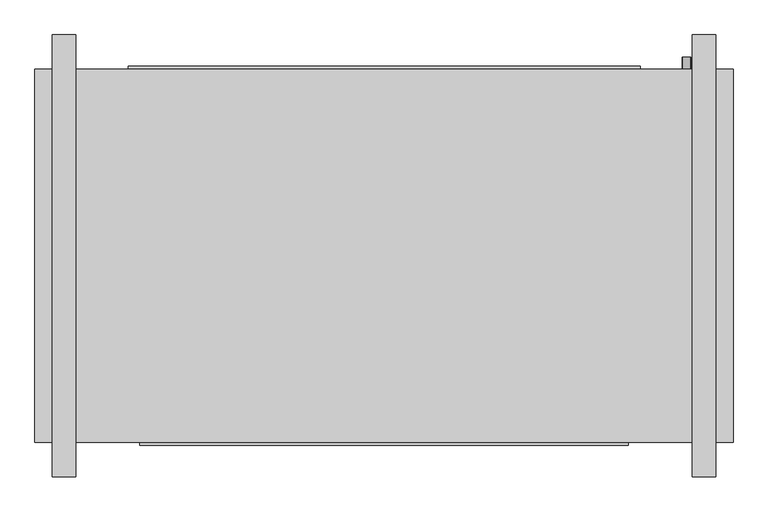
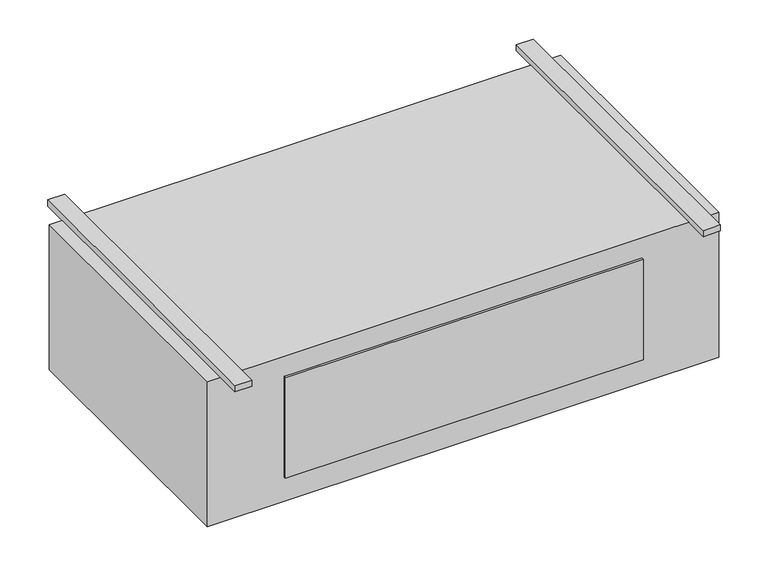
"""IFC4 building model written with IfcOpenShell, lengths in millimetres: proxy geometry, Exposed_High_Capacity_Horizontal_Cabinet_Fan_Coil_Unit_-_42DFA_-_CARRIER_-_4-Pipe_RH_2022 : Size 18 - 277v/60Hz/1Ph - 6/2 Coil."""

from ifc_helpers import new_model, si_unit, point, frame, frame_2d, origin, origin_with_axes, place, context, project, spatial, polyline, circle_curve, trimmed, segment, composite_curve, outline, extrude, source, transform, mapped, element, save


def mechanical_equipment_647ce925(model_context):
    return source(origin(), model_context, "Body", "SweptSolid", [
        extrude(outline(composite_curve([segment(trimmed(circle_curve(frame_2d((-406.4, 812.8)), 9.525), [point((-406.4, 803.275))], [point((-406.4, 822.325))], False, "CARTESIAN"), True, "CONTINUOUS"), segment(trimmed(circle_curve(frame_2d((-406.4, 812.8)), 9.525), [point((-406.4, 822.325))], [point((-406.4, 803.275))], False, "CARTESIAN"), True, "CONTINUOUS")], self_intersect=False)), frame((0.0, 169.8625, 0.0), z_axis=(0.0, 1.0, 0.0), x_axis=(0.0, 0.0, 1.0)), (0.0, 0.0, 1.0), 25.4),
        extrude(outline(composite_curve([segment(trimmed(circle_curve(frame_2d((-330.2, 812.8)), 7.9375), [point((-330.2, 804.8625))], [point((-330.2, 820.7375))], False, "CARTESIAN"), True, "CONTINUOUS"), segment(trimmed(circle_curve(frame_2d((-330.2, 812.8)), 7.9375), [point((-330.2, 820.7375))], [point((-330.2, 804.8625))], False, "CARTESIAN"), True, "CONTINUOUS")], self_intersect=False)), frame((0.0, 169.8625, 0.0), z_axis=(0.0, 1.0, 0.0), x_axis=(0.0, 0.0, 1.0)), (0.0, 0.0, 1.0), 25.4),
        extrude(outline(composite_curve([segment(trimmed(circle_curve(frame_2d((-254.0, 812.8)), 7.9375), [point((-254.0, 804.8625))], [point((-254.0, 820.7375))], False, "CARTESIAN"), True, "CONTINUOUS"), segment(trimmed(circle_curve(frame_2d((-254.0, 812.8)), 7.9375), [point((-254.0, 820.7375))], [point((-254.0, 804.8625))], False, "CARTESIAN"), True, "CONTINUOUS")], self_intersect=False)), frame((0.0, 169.8625, 0.0), z_axis=(0.0, 1.0, 0.0), x_axis=(0.0, 0.0, 1.0)), (0.0, 0.0, 1.0), 25.4),
        extrude(outline(composite_curve([segment(trimmed(circle_curve(frame_2d((-177.8, 812.8)), 7.9375), [point((-177.8, 804.8625))], [point((-177.8, 820.7375))], False, "CARTESIAN"), True, "CONTINUOUS"), segment(trimmed(circle_curve(frame_2d((-177.8, 812.8)), 7.9375), [point((-177.8, 820.7375))], [point((-177.8, 804.8625))], False, "CARTESIAN"), True, "CONTINUOUS")], self_intersect=False)), frame((0.0, 169.8625, 0.0), z_axis=(0.0, 1.0, 0.0), x_axis=(0.0, 0.0, 1.0)), (0.0, 0.0, 1.0), 25.4),
        extrude(outline(composite_curve([segment(trimmed(circle_curve(frame_2d((-101.6, 812.8)), 7.9375), [point((-101.6, 804.8625))], [point((-101.6, 820.7375))], False, "CARTESIAN"), True, "CONTINUOUS"), segment(trimmed(circle_curve(frame_2d((-101.6, 812.8)), 7.9375), [point((-101.6, 820.7375))], [point((-101.6, 804.8625))], False, "CARTESIAN"), True, "CONTINUOUS")], self_intersect=False)), frame((0.0, 169.8625, 0.0), z_axis=(0.0, 1.0, 0.0), x_axis=(0.0, 0.0, 1.0)), (0.0, 0.0, 1.0), 25.4),
        extrude(outline(polyline([(914.4, 169.8625), (914.4, -646.1125), (-609.6, -646.1125), (-609.6, 169.8625), (914.4, 169.8625)])), frame((0.0, 0.0, -457.2), z_axis=(0.0, 0.0, 1.0), x_axis=(1.0, 0.0, 0.0)), (0.0, 0.0, 1.0), 457.2),
        extrude(outline(polyline([(-406.4, 176.2125), (711.2, 176.2125), (711.2, 169.8625), (-406.4, 169.8625), (-406.4, 176.2125)])), frame((0.0, 0.0, -381.0), z_axis=(0.0, 0.0, 1.0), x_axis=(1.0, 0.0, 0.0)), (0.0, 0.0, 1.0), 355.6),
        extrude(outline(polyline([(-520.7, 244.475), (-520.7, -720.725), (-571.5, -720.725), (-571.5, 244.475), (-520.7, 244.475)])), origin_with_axes(), (0.0, 0.0, 1.0), 19.05),
        extrude(outline(polyline([(876.3, 244.475), (876.3, -720.725), (825.5, -720.725), (825.5, 244.475), (876.3, 244.475)])), origin_with_axes(), (0.0, 0.0, 1.0), 19.05),
        extrude(outline(polyline([(685.8, -652.4625), (-381.0, -652.4625), (-381.0, -646.1125), (685.8, -646.1125), (685.8, -652.4625)])), frame((0.0, 0.0, -381.0), z_axis=(0.0, 0.0, 1.0), x_axis=(1.0, 0.0, 0.0)), (0.0, 0.0, 1.0), 317.5),
    ])


if __name__ == "__main__":
    model = new_model("IFC4")
    model_context = context("Model", 3, world=origin())
    ifc_project = project(units=[si_unit("LENGTHUNIT", "METRE", prefix="MILLI")], contexts=[model_context])
    site = spatial("IfcSite", under=ifc_project)
    building = spatial("IfcBuilding", under=site)
    placement = place(None, origin())
    mechanical_equipment_shape = mechanical_equipment_647ce925(model_context)
    element("IfcBuildingElementProxy", 1, Name="Exposed_High_Capacity_Horizontal_Cabinet_Fan_Coil_Unit_-_42DFA_-_CARRIER_-_4-Pipe_RH_2022 : Size 18 - 277v/60Hz/1Ph - 6/2 Coil", ObjectType="Exposed_High_Capacity_Horizontal_Cabinet_Fan_Coil_Unit_-_42DFA_-_CARRIER_-_4-Pipe_RH_2022 : Size 18 - 277v/60Hz/1Ph - 6/2 Coil", at=placement, inside=building, context=model_context, shape_type="MappedRepresentation", body=[
        mapped(mechanical_equipment_shape, transform((0.0, 0.0, 0.0), x_axis=(1.0, 0.0, 0.0), y_axis=(0.0, 1.0, 0.0), z_axis=(0.0, 0.0, 1.0))),
    ])
    save(model, "model.ifc")
